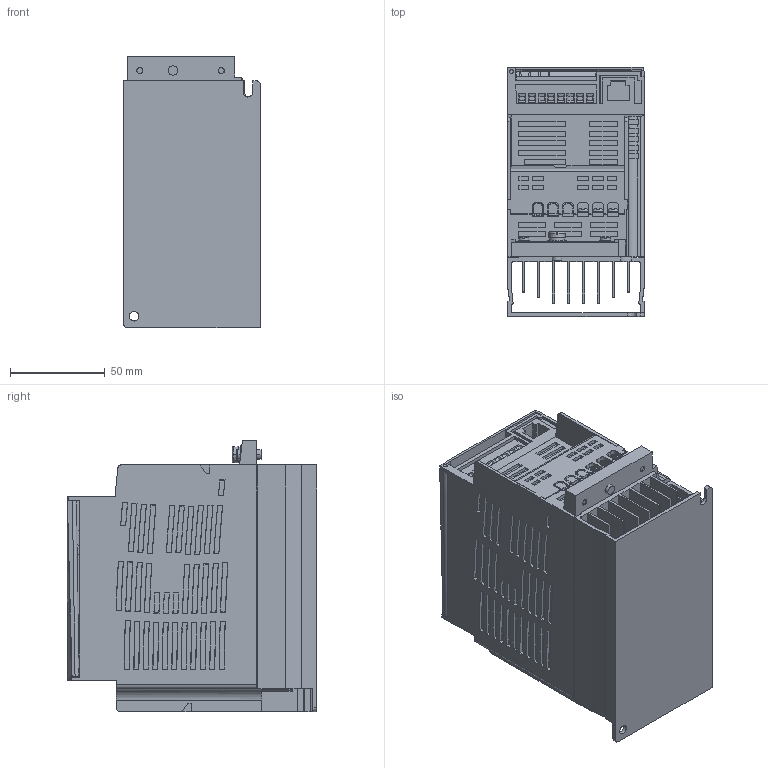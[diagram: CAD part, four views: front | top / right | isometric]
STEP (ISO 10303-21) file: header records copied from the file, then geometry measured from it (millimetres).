
FILE_DESCRIPTION((''),'2;1');
FILE_NAME('N3_S1_C_1_ASM','2026-03-23T10:29:01',('sesa57331'),('Schneider-Electric'),'CREO PARAMETRIC BY PTC INC, 2025093','CREO PARAMETRIC BY PTC INC, 2025093','');
FILE_SCHEMA(('AP242_MANAGED_MODEL_BASED_3D_ENGINEERING_MIM_LF { 1 0 10303 442 1 1 4 }'));
Products named in the file (19): DRIVE_S1_3; CONTROL_TERM_COVER; TERM_COVER_S1_1; TERM_COVER_S1_2; SCREW_M4_S1-48316; SCREW_M4_S1-49152; SCREW_M5_S1; SHUNT-BAR_S1; TERM_SCREW_S1-51792; TERM_SCREW_S1-52732; TERM_SCREW_S1-53672; TERM_SCREW_S1-54612; TERM_SCREW_S1-55552; TERM_SCREW_S1-56492; TERM_SCREW_S1-57432; TERM_SCREW_S1-58372; TERM_SCREW_S1-59312; TERM_SCREW_S1-60252; N3_S1_C_1_ASM
Assembly tree (18 placements, depth 2):
  N3_S1_C_1_ASM
    DRIVE_S1_3
    CONTROL_TERM_COVER
    TERM_COVER_S1_1
    TERM_COVER_S1_2
    SCREW_M4_S1-48316
    SCREW_M4_S1-49152
    SCREW_M5_S1
    SHUNT-BAR_S1
    TERM_SCREW_S1-51792
    TERM_SCREW_S1-52732
    TERM_SCREW_S1-53672
    TERM_SCREW_S1-54612
    TERM_SCREW_S1-55552
    TERM_SCREW_S1-56492
    TERM_SCREW_S1-57432
    TERM_SCREW_S1-58372
    TERM_SCREW_S1-59312
    TERM_SCREW_S1-60252
Bounding box: 72.05 x 131.4 x 142.95 mm (x, y, z)
Volume: 833024.7 mm3; surface area: 182105.9 mm2
Topology: 18 solids, 18 shells, 1934 faces, 5392 edges, 3683 vertices
Faces by surface type: plane 1458, cylinder 213, cone 187, sphere 40, torus 29, bspline 7
Entity records: 78286 total; most frequent: CARTESIAN_POINT 14198, ORIENTED_EDGE 10784, DIRECTION 9507, EDGE_CURVE 5392, VERTEX_POINT 3683, VECTOR 3677, LINE 3677, AXIS2_PLACEMENT_3D 2915
